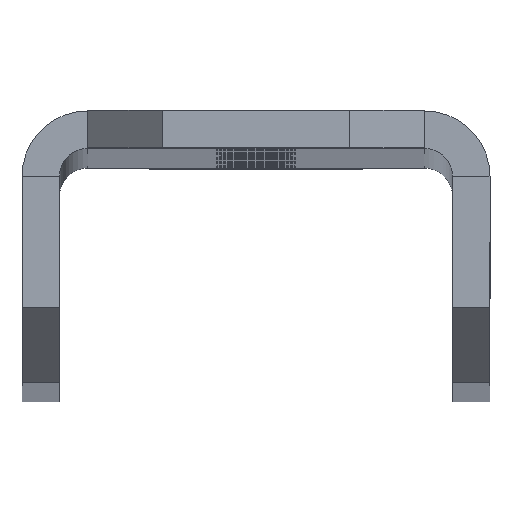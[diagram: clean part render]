
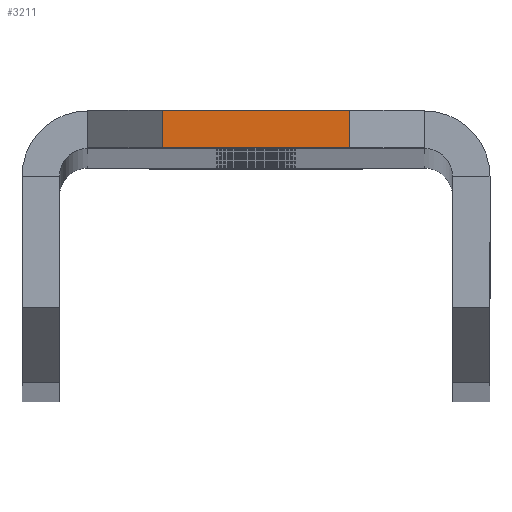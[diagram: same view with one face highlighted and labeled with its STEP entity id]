
A CAD part, top view. The second image highlights one B-rep face of the part: STEP entity #3211.
In plain terms, the highlighted planar face has unit normal (0, 0, 1).
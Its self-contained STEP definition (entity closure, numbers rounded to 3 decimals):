
#142 = DIRECTION ( 'NONE',  ( 0., -1., 0. ) ) ;
#312 = LINE ( 'NONE', #1955, #2493 ) ;
#338 = CARTESIAN_POINT ( 'NONE',  ( 5., 0., 330.155 ) ) ;
#438 = CARTESIAN_POINT ( 'NONE',  ( -5., -2., 330.155 ) ) ;
#473 = CARTESIAN_POINT ( 'NONE',  ( 9., 0., 330.155 ) ) ;
#479 = EDGE_CURVE ( 'NONE', #2721, #2021, #312, .T. ) ;
#684 = EDGE_LOOP ( 'NONE', ( #2163, #1318, #3601, #1595 ) ) ;
#685 = LINE ( 'NONE', #747, #2768 ) ;
#747 = CARTESIAN_POINT ( 'NONE',  ( -5., 0., 330.155 ) ) ;
#789 = EDGE_CURVE ( 'NONE', #1557, #3050, #685, .T. ) ;
#804 = DIRECTION ( 'NONE',  ( -1., 0., 0. ) ) ;
#934 = DIRECTION ( 'NONE',  ( -1., 0., 0. ) ) ;
#1318 = ORIENTED_EDGE ( 'NONE', *, *, #479, .T. ) ;
#1322 = LINE ( 'NONE', #2678, #2902 ) ;
#1353 = CARTESIAN_POINT ( 'NONE',  ( 5., -2., 330.155 ) ) ;
#1481 = AXIS2_PLACEMENT_3D ( 'NONE', #473, #1916, #142 ) ;
#1557 = VERTEX_POINT ( 'NONE', #3726 ) ;
#1595 = ORIENTED_EDGE ( 'NONE', *, *, #789, .T. ) ;
#1762 = EDGE_CURVE ( 'NONE', #2721, #3050, #2376, .T. ) ;
#1813 = DIRECTION ( 'NONE',  ( 0., 1., 0. ) ) ;
#1916 = DIRECTION ( 'NONE',  ( 0., 0., 1. ) ) ;
#1955 = CARTESIAN_POINT ( 'NONE',  ( 5., 0., 330.155 ) ) ;
#2021 = VERTEX_POINT ( 'NONE', #338 ) ;
#2163 = ORIENTED_EDGE ( 'NONE', *, *, #1762, .F. ) ;
#2322 = CARTESIAN_POINT ( 'NONE',  ( 9., -2., 330.155 ) ) ;
#2376 = LINE ( 'NONE', #2322, #2799 ) ;
#2493 = VECTOR ( 'NONE', #1813, 1000. ) ;
#2678 = CARTESIAN_POINT ( 'NONE',  ( 9., 0., 330.155 ) ) ;
#2721 = VERTEX_POINT ( 'NONE', #1353 ) ;
#2768 = VECTOR ( 'NONE', #3383, 1000. ) ;
#2799 = VECTOR ( 'NONE', #804, 1000. ) ;
#2902 = VECTOR ( 'NONE', #934, 1000. ) ;
#3050 = VERTEX_POINT ( 'NONE', #438 ) ;
#3107 = PLANE ( 'NONE',  #1481 ) ;
#3186 = FACE_OUTER_BOUND ( 'NONE', #684, .T. ) ;
#3211 = ADVANCED_FACE ( 'NONE', ( #3186 ), #3107, .T. ) ;
#3383 = DIRECTION ( 'NONE',  ( 0., -1., 0. ) ) ;
#3601 = ORIENTED_EDGE ( 'NONE', *, *, #3844, .T. ) ;
#3726 = CARTESIAN_POINT ( 'NONE',  ( -5., 0., 330.155 ) ) ;
#3844 = EDGE_CURVE ( 'NONE', #2021, #1557, #1322, .T. ) ;
